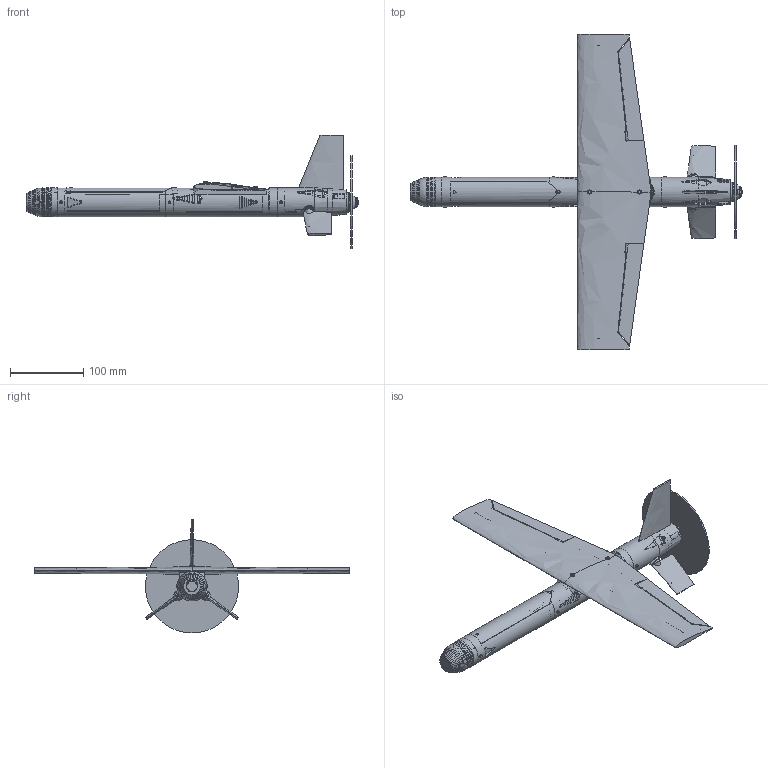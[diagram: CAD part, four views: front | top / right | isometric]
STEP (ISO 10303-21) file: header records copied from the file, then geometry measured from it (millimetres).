
FILE_DESCRIPTION(('Open CASCADE Model'),'2;1');
FILE_NAME('Open CASCADE Shape Model','2026-10-04T21:26:23',('Author'),( 'Open CASCADE'),'Open CASCADE STEP processor 7.9','Open CASCADE 7.9' ,'Unknown');
FILE_SCHEMA(('AUTOMOTIVE_DESIGN { 1 0 10303 214 1 1 1 1 }'));
Length unit declared in the file: millimetre
Products named in the file (131): C4; N0M-nose-micro-camera; N0M-vtx-shelf; F1-fuselage-front; F2-fuselage-main; F3-tail-module; HF-front-hatch; HG-gps-carrier; WR-wing-right; WL-wing-left; AR-aileron-right; AL-aileron-left; SR-stabilator-right; SL-stabilator-left; FN-fin; M1-motor-plate; SP-spinner; ENV-motor; ENV-prop_disc; ENV-prop_hub_nut; ENV-battery; ENV-camera_micro19; ENV-cam_screws; ENV-MD_camera_micro19; ENV-MD_cam_screws; ENV-MD_vtx; ENV-MD_dome; ENV-PD_pi_board; ENV-PD_pi_sensor_lens; ENV-PD_pi_connector; ENV-PD_pi_ribbon; ENV-PD_pi_screws; ENV-PD_dome; ENV-O_o4_camera; ENV-O_o4_screws; ENV-O_o4_module; ENV-OD_o4_camera; ENV-OD_o4_screws; ENV-OD_o4_module; ENV-OD_dome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
Assembly tree (130 placements, depth 2):
  C4
    N0M-nose-micro-camera
    N0M-vtx-shelf
    F1-fuselage-front
    F2-fuselage-main
    F3-tail-module
    HF-front-hatch
    HG-gps-carrier
    WR-wing-right
    WL-wing-left
    AR-aileron-right
    AL-aileron-left
    SR-stabilator-right
    SL-stabilator-left
    FN-fin
    M1-motor-plate
    SP-spinner
    ENV-motor
    ENV-prop_disc
    ENV-prop_hub_nut
    ENV-battery
    ENV-camera_micro19
    ENV-cam_screws
    ENV-MD_camera_micro19
    ENV-MD_cam_screws
    ENV-MD_vtx
    ENV-MD_dome
    ENV-PD_pi_board
    ENV-PD_pi_sensor_lens
    ENV-PD_pi_connector
    ENV-PD_pi_ribbon
    ENV-PD_pi_screws
    ENV-PD_dome
    ENV-O_o4_camera
    ENV-O_o4_screws
    ENV-O_o4_module
    ENV-OD_o4_camera
    ENV-OD_o4_screws
    ENV-OD_o4_module
    ENV-OD_dome
    ENV-vtx
    ENV-gnss
    ENV-flight_controller
    ENV-ail_servo_arm
    ENV-ail_rod_R
    ENV-ail_link_R
    ENV-ail_rod_L
    ENV-ail_link_L
    ENV-ail_spine_R
    ENV-ail_spine_L
    ENV-receiver
    ENV-ant_elrs
    ENV-ant_vtx
    ENV-MD_ant_vtx
    ENV-O_ant_video
    ENV-OD_ant_video
    ENV-aileron_servo
    ENV-tail_servo_L
    ENV-tail_servo_R
    ENV-esc
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Bounding box: 452.29 x 430 x 155.1 mm (x, y, z)
Volume: 493461.5 mm3; surface area: 348852.5 mm2
Topology: 150 solids, 152 shells, 2675 faces, 6830 edges, 4447 vertices
Faces by surface type: plane 1699, bspline 425, cylinder 418, cone 109, torus 14, sphere 10
Full cylindrical faces by diameter (mm): 0.8 x12, 0.85 x4, 0.98 x6, 1.5 x2, 1.6 x33, 1.7 x8, 2 x36, 2.1 x2, 2.2 x14, 2.3 x2, 2.4 x2, 2.6 x2, 3 x14, 3.2 x4, 3.8 x12, 3.9 x3, 3.94 x3, 5 x10, 5.2 x4, 5.5 x6, 5.6 x3, 6 x5, 6.95 x1, 9 x1, 9.2 x1, 13 x3, 14 x2, 17 x2, 25 x1, 27 x1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
Entity records: 368530 total; most frequent: CARTESIAN_POINT 240483, DIRECTION 19448, ORIENTED_EDGE 13612, PCURVE 13612, DEFINITIONAL_REPRESENTATION 13612, LINE 10039, VECTOR 10039, B_SPLINE_CURVE_WITH_KNOTS 6830
